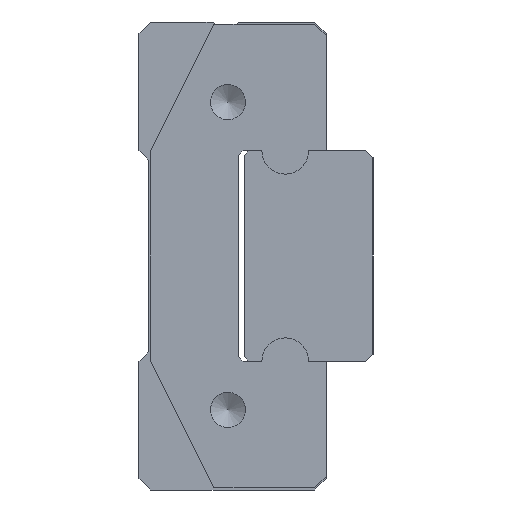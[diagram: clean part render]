
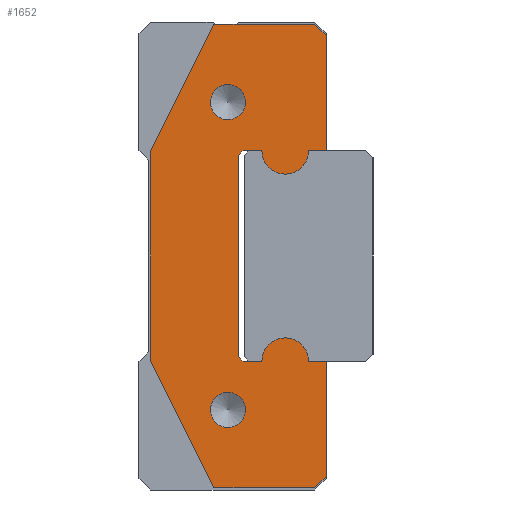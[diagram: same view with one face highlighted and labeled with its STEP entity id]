
A CAD part, left-side view. The second image highlights one B-rep face of the part: STEP entity #1652.
In plain terms, the highlighted planar face has unit normal (-1, 0, 0) as drawn and (0, 0, 1) by its records, which use the part's own axes.
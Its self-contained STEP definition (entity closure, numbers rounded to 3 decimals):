
#118=PLANE('',#1837);
#219=LINE('',#2645,#367);
#223=LINE('',#2654,#371);
#226=LINE('',#2660,#374);
#229=LINE('',#2666,#377);
#233=LINE('',#2678,#381);
#236=LINE('',#2684,#384);
#239=LINE('',#2690,#387);
#242=LINE('',#2696,#390);
#245=LINE('',#2702,#393);
#249=LINE('',#2714,#397);
#252=LINE('',#2720,#400);
#255=LINE('',#2726,#403);
#258=LINE('',#2732,#406);
#261=LINE('',#2738,#409);
#264=LINE('',#2744,#412);
#267=LINE('',#2750,#415);
#367=VECTOR('',#2184,1000.);
#371=VECTOR('',#2190,1000.);
#374=VECTOR('',#2195,1000.);
#377=VECTOR('',#2200,1000.);
#381=VECTOR('',#2212,1000.);
#384=VECTOR('',#2217,1000.);
#387=VECTOR('',#2222,1000.);
#390=VECTOR('',#2227,1000.);
#393=VECTOR('',#2232,1000.);
#397=VECTOR('',#2244,1000.);
#400=VECTOR('',#2249,1000.);
#403=VECTOR('',#2254,1000.);
#406=VECTOR('',#2259,1000.);
#409=VECTOR('',#2264,1000.);
#412=VECTOR('',#2269,1000.);
#415=VECTOR('',#2274,1000.);
#789=ORIENTED_EDGE('',*,*,#1021,.F.);
#790=ORIENTED_EDGE('',*,*,#1022,.F.);
#791=ORIENTED_EDGE('',*,*,#965,.T.);
#792=ORIENTED_EDGE('',*,*,#969,.T.);
#793=ORIENTED_EDGE('',*,*,#972,.T.);
#794=ORIENTED_EDGE('',*,*,#975,.T.);
#795=ORIENTED_EDGE('',*,*,#978,.T.);
#796=ORIENTED_EDGE('',*,*,#981,.T.);
#797=ORIENTED_EDGE('',*,*,#984,.T.);
#798=ORIENTED_EDGE('',*,*,#987,.T.);
#799=ORIENTED_EDGE('',*,*,#990,.T.);
#800=ORIENTED_EDGE('',*,*,#993,.T.);
#801=ORIENTED_EDGE('',*,*,#996,.T.);
#802=ORIENTED_EDGE('',*,*,#999,.T.);
#803=ORIENTED_EDGE('',*,*,#1002,.T.);
#804=ORIENTED_EDGE('',*,*,#1005,.T.);
#805=ORIENTED_EDGE('',*,*,#1008,.T.);
#806=ORIENTED_EDGE('',*,*,#1011,.T.);
#807=ORIENTED_EDGE('',*,*,#1014,.T.);
#808=ORIENTED_EDGE('',*,*,#1017,.T.);
#965=EDGE_CURVE('',#1141,#1142,#219,.T.);
#969=EDGE_CURVE('',#1142,#1145,#223,.T.);
#972=EDGE_CURVE('',#1145,#1147,#226,.T.);
#975=EDGE_CURVE('',#1147,#1149,#229,.T.);
#978=EDGE_CURVE('',#1149,#1151,#1229,.T.);
#981=EDGE_CURVE('',#1151,#1153,#233,.T.);
#984=EDGE_CURVE('',#1153,#1155,#236,.T.);
#987=EDGE_CURVE('',#1155,#1157,#239,.T.);
#990=EDGE_CURVE('',#1157,#1159,#242,.T.);
#993=EDGE_CURVE('',#1159,#1161,#245,.T.);
#996=EDGE_CURVE('',#1161,#1163,#1231,.T.);
#999=EDGE_CURVE('',#1163,#1165,#249,.T.);
#1002=EDGE_CURVE('',#1165,#1167,#252,.T.);
#1005=EDGE_CURVE('',#1167,#1169,#255,.T.);
#1008=EDGE_CURVE('',#1169,#1171,#258,.T.);
#1011=EDGE_CURVE('',#1171,#1173,#261,.T.);
#1014=EDGE_CURVE('',#1173,#1175,#264,.T.);
#1017=EDGE_CURVE('',#1175,#1141,#267,.T.);
#1021=EDGE_CURVE('',#1179,#1179,#1235,.T.);
#1022=EDGE_CURVE('',#1180,#1180,#1236,.T.);
#1141=VERTEX_POINT('',#2646);
#1142=VERTEX_POINT('',#2647);
#1145=VERTEX_POINT('',#2655);
#1147=VERTEX_POINT('',#2661);
#1149=VERTEX_POINT('',#2667);
#1151=VERTEX_POINT('',#2673);
#1153=VERTEX_POINT('',#2679);
#1155=VERTEX_POINT('',#2685);
#1157=VERTEX_POINT('',#2691);
#1159=VERTEX_POINT('',#2697);
#1161=VERTEX_POINT('',#2703);
#1163=VERTEX_POINT('',#2709);
#1165=VERTEX_POINT('',#2715);
#1167=VERTEX_POINT('',#2721);
#1169=VERTEX_POINT('',#2727);
#1171=VERTEX_POINT('',#2733);
#1173=VERTEX_POINT('',#2739);
#1175=VERTEX_POINT('',#2745);
#1179=VERTEX_POINT('',#2759);
#1180=VERTEX_POINT('',#2761);
#1229=CIRCLE('',#1817,1.);
#1231=CIRCLE('',#1825,1.);
#1235=CIRCLE('',#1838,0.75);
#1236=CIRCLE('',#1839,0.75);
#1368=EDGE_LOOP('',(#789));
#1369=EDGE_LOOP('',(#790));
#1370=EDGE_LOOP('',(#791,#792,#793,#794,#795,#796,#797,#798,#799,#800,#801,
#802,#803,#804,#805,#806,#807,#808));
#1520=FACE_BOUND('',#1368,.T.);
#1521=FACE_BOUND('',#1369,.T.);
#1522=FACE_BOUND('',#1370,.T.);
#1652=ADVANCED_FACE('',(#1520,#1521,#1522),#118,.T.);
#1817=AXIS2_PLACEMENT_3D('',#2672,#2205,#2206);
#1825=AXIS2_PLACEMENT_3D('',#2708,#2237,#2238);
#1837=AXIS2_PLACEMENT_3D('',#2757,#2282,#2283);
#1838=AXIS2_PLACEMENT_3D('',#2758,#2284,#2285);
#1839=AXIS2_PLACEMENT_3D('',#2760,#2286,#2287);
#2184=DIRECTION('',(0.,-1.,0.));
#2190=DIRECTION('',(0.707,-0.707,0.));
#2195=DIRECTION('',(1.,0.,0.));
#2200=DIRECTION('',(0.,1.,0.));
#2205=DIRECTION('',(0.,0.,1.));
#2206=DIRECTION('',(1.,0.,0.));
#2212=DIRECTION('',(0.,1.,0.));
#2217=DIRECTION('',(0.707,0.707,0.));
#2222=DIRECTION('',(1.,0.,0.));
#2227=DIRECTION('',(0.707,-0.707,0.));
#2232=DIRECTION('',(0.,-1.,0.));
#2237=DIRECTION('',(0.,0.,1.));
#2238=DIRECTION('',(1.,0.,0.));
#2244=DIRECTION('',(0.,-1.,0.));
#2249=DIRECTION('',(1.,0.,0.));
#2254=DIRECTION('',(0.707,0.707,0.));
#2259=DIRECTION('',(0.,1.,0.));
#2264=DIRECTION('',(-0.894,0.447,0.));
#2269=DIRECTION('',(-1.,0.,0.));
#2274=DIRECTION('',(-0.894,-0.447,0.));
#2282=DIRECTION('',(0.,0.,1.));
#2283=DIRECTION('',(1.,0.,0.));
#2284=DIRECTION('',(0.,0.,1.));
#2285=DIRECTION('',(1.,0.,0.));
#2286=DIRECTION('',(0.,0.,1.));
#2287=DIRECTION('',(1.,0.,0.));
#2645=CARTESIAN_POINT('',(-9.9,4.8,0.));
#2646=CARTESIAN_POINT('',(-9.9,4.8,0.));
#2647=CARTESIAN_POINT('',(-9.9,0.5,0.));
#2654=CARTESIAN_POINT('',(-9.9,0.5,0.));
#2655=CARTESIAN_POINT('',(-9.4,0.,0.));
#2660=CARTESIAN_POINT('',(-9.4,0.,0.));
#2661=CARTESIAN_POINT('',(-4.5,0.,0.));
#2666=CARTESIAN_POINT('',(-4.5,0.,0.));
#2667=CARTESIAN_POINT('',(-4.5,0.75,0.));
#2672=CARTESIAN_POINT('',(-4.5,1.75,0.));
#2673=CARTESIAN_POINT('',(-4.5,2.75,0.));
#2678=CARTESIAN_POINT('',(-4.5,2.75,0.));
#2679=CARTESIAN_POINT('',(-4.5,3.55,0.));
#2684=CARTESIAN_POINT('',(-4.5,3.55,0.));
#2685=CARTESIAN_POINT('',(-4.3,3.75,0.));
#2690=CARTESIAN_POINT('',(-4.3,3.75,0.));
#2691=CARTESIAN_POINT('',(4.3,3.75,0.));
#2696=CARTESIAN_POINT('',(4.3,3.75,0.));
#2697=CARTESIAN_POINT('',(4.5,3.55,0.));
#2702=CARTESIAN_POINT('',(4.5,3.55,0.));
#2703=CARTESIAN_POINT('',(4.5,2.75,0.));
#2708=CARTESIAN_POINT('',(4.5,1.75,0.));
#2709=CARTESIAN_POINT('',(4.5,0.75,0.));
#2714=CARTESIAN_POINT('',(4.5,0.75,0.));
#2715=CARTESIAN_POINT('',(4.5,0.,0.));
#2720=CARTESIAN_POINT('',(4.5,0.,0.));
#2721=CARTESIAN_POINT('',(9.4,0.,0.));
#2726=CARTESIAN_POINT('',(9.4,0.,0.));
#2727=CARTESIAN_POINT('',(9.9,0.5,0.));
#2732=CARTESIAN_POINT('',(9.9,0.5,0.));
#2733=CARTESIAN_POINT('',(9.9,4.8,0.));
#2738=CARTESIAN_POINT('',(9.9,4.8,0.));
#2739=CARTESIAN_POINT('',(4.5,7.5,0.));
#2744=CARTESIAN_POINT('',(4.5,7.5,0.));
#2745=CARTESIAN_POINT('',(-4.5,7.5,0.));
#2750=CARTESIAN_POINT('',(-4.5,7.5,0.));
#2757=CARTESIAN_POINT('',(-4.5,1.75,0.));
#2758=CARTESIAN_POINT('',(-6.575,4.2,0.));
#2759=CARTESIAN_POINT('',(-5.825,4.2,0.));
#2760=CARTESIAN_POINT('',(6.575,4.2,0.));
#2761=CARTESIAN_POINT('',(7.325,4.2,0.));
